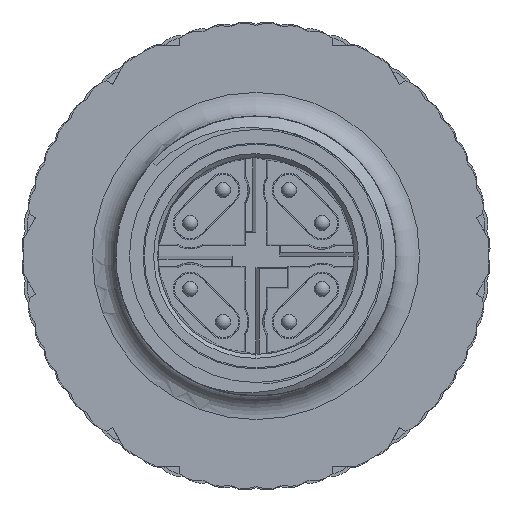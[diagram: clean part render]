
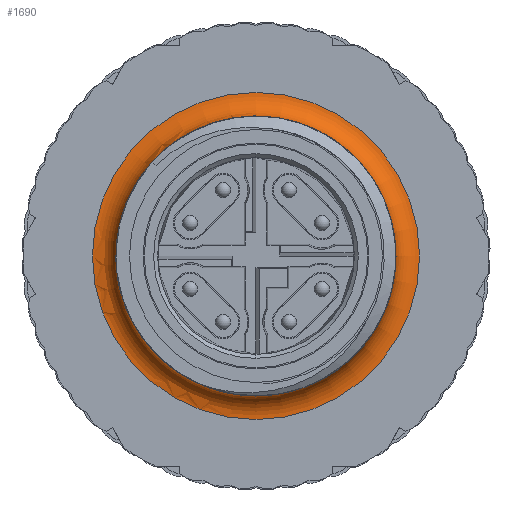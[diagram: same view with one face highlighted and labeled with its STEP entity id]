
A CAD part, left-side view. The second image highlights one B-rep face of the part: STEP entity #1690.
In plain terms, the highlighted toroidal (fillet/blend) face has major radius 6.95 mm and minor radius 1 mm.
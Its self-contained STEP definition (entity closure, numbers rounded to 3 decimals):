
#201=TOROIDAL_SURFACE('',#14538,6.95,1.);
#1446=B_SPLINE_CURVE_WITH_KNOTS('',3,(#21676,#21677,#21678,#21679,#21680,
#21681),.UNSPECIFIED.,.F.,.F.,(4,2,4),(0.,0.5,1.),.UNSPECIFIED.);
#1447=B_SPLINE_CURVE_WITH_KNOTS('',3,(#21685,#21686,#21687,#21688),
 .UNSPECIFIED.,.F.,.F.,(4,4),(0.,1.),.UNSPECIFIED.);
#1690=ADVANCED_FACE('',(#2491,#2492),#201,.F.);
#2491=FACE_BOUND('',#2784,.T.);
#2492=FACE_BOUND('',#2785,.T.);
#2784=EDGE_LOOP('',(#7684));
#2785=EDGE_LOOP('',(#7685,#7686,#7687,#7688));
#7684=ORIENTED_EDGE('',*,*,#12138,.F.);
#7685=ORIENTED_EDGE('',*,*,#12584,.T.);
#7686=ORIENTED_EDGE('',*,*,#12585,.T.);
#7687=ORIENTED_EDGE('',*,*,#12325,.F.);
#7688=ORIENTED_EDGE('',*,*,#12586,.T.);
#10707=VERTEX_POINT('',#20561);
#10810=VERTEX_POINT('',#20993);
#10812=VERTEX_POINT('',#20996);
#10987=VERTEX_POINT('',#21682);
#10988=VERTEX_POINT('',#21683);
#12138=EDGE_CURVE('',#10707,#10707,#13745,.T.);
#12325=EDGE_CURVE('',#10810,#10812,#13767,.T.);
#12584=EDGE_CURVE('',#10987,#10988,#1446,.T.);
#12585=EDGE_CURVE('',#10988,#10812,#13849,.T.);
#12586=EDGE_CURVE('',#10810,#10987,#1447,.T.);
#13745=CIRCLE('',#14313,6.95);
#13767=CIRCLE('',#14357,5.95);
#13849=CIRCLE('',#14537,1.);
#14313=AXIS2_PLACEMENT_3D('',#20560,#16200,#16201);
#14357=AXIS2_PLACEMENT_3D('',#20995,#16438,#16439);
#14537=AXIS2_PLACEMENT_3D('',#21684,#16946,#16947);
#14538=AXIS2_PLACEMENT_3D('',#21689,#16948,#16949);
#16200=DIRECTION('',(1.,0.,0.));
#16201=DIRECTION('',(0.,0.,-1.));
#16438=DIRECTION('',(-1.,0.,0.));
#16439=DIRECTION('',(0.,0.,-1.));
#16946=DIRECTION('',(0.,1.,0.));
#16947=DIRECTION('',(0.,0.,-1.));
#16948=DIRECTION('',(1.,0.,0.));
#16949=DIRECTION('',(0.,0.,-1.));
#20560=CARTESIAN_POINT('',(9.,0.,0.));
#20561=CARTESIAN_POINT('',(9.,0.,-6.95));
#20993=CARTESIAN_POINT('',(8.,3.457,-4.843));
#20995=CARTESIAN_POINT('',(8.,0.,0.));
#20996=CARTESIAN_POINT('',(8.,0.,5.95));
#21676=CARTESIAN_POINT('',(8.141,5.515,-2.26));
#21677=CARTESIAN_POINT('',(8.14,6.26,-0.441));
#21678=CARTESIAN_POINT('',(8.138,6.039,1.694));
#21679=CARTESIAN_POINT('',(8.139,3.863,4.941));
#21680=CARTESIAN_POINT('',(8.141,1.964,5.96));
#21681=CARTESIAN_POINT('',(8.141,0.,5.96));
#21682=CARTESIAN_POINT('',(8.141,5.515,-2.26));
#21683=CARTESIAN_POINT('',(8.141,0.,5.96));
#21684=CARTESIAN_POINT('',(8.,0.,6.95));
#21685=CARTESIAN_POINT('',(8.,3.457,-4.843));
#21686=CARTESIAN_POINT('',(8.045,4.371,-4.19));
#21687=CARTESIAN_POINT('',(8.091,5.083,-3.296));
#21688=CARTESIAN_POINT('',(8.141,5.515,-2.26));
#21689=CARTESIAN_POINT('',(8.,0.,0.));
